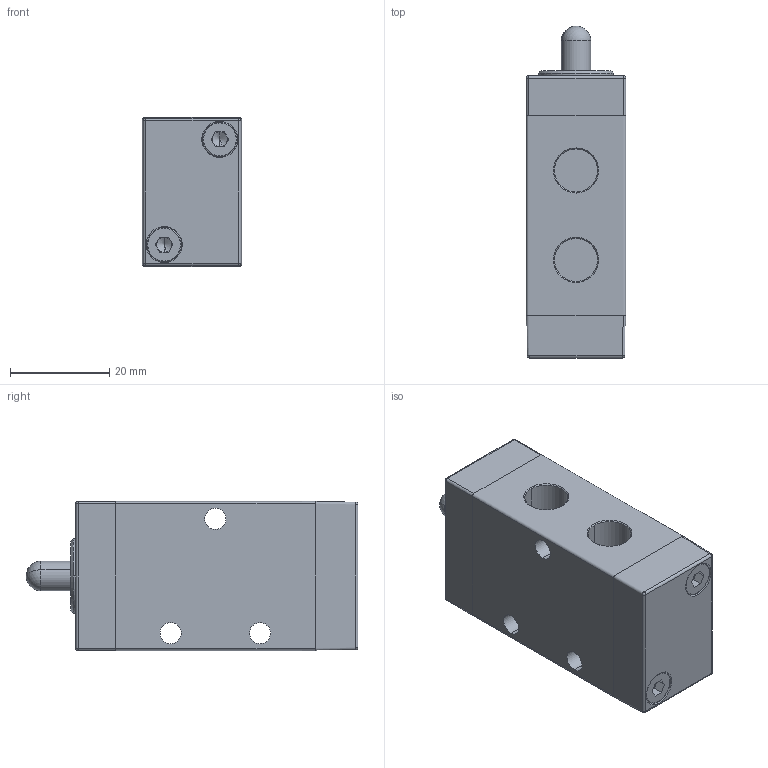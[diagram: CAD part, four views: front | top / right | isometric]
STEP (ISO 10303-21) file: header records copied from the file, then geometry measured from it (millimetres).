
FILE_DESCRIPTION (( 'STEP AP203' ), '1' );
FILE_NAME ('VCMS32.M8.STEP', '2006-01-31T14:40:18', ( 'Vesta Automation srl' ), ( 'Vesta Automation srl' ), 'SwSTEP 2.0', 'SolidWorks 2005187', '' );
FILE_SCHEMA (( 'CONFIG_CONTROL_DESIGN' ));
Length unit declared in the file: millimetre
Products named in the file (3): BODY-VCMS32.M8; SPOOL-VCMS32.M8; VCMS32.M8
Assembly tree (2 placements, depth 2):
  VCMS32.M8
    SPOOL-VCMS32.M8
    BODY-VCMS32.M8
Bounding box: 20 x 66.8 x 30 mm (x, y, z)
Volume: 26240.5 mm3; surface area: 13839.1 mm2
Topology: 2 solids, 6 shells, 353 faces, 852 edges, 527 vertices
Faces by surface type: plane 193, cylinder 102, cone 26, torus 22, sphere 10
Entity records: 10435 total; most frequent: DIRECTION 1832, CARTESIAN_POINT 1739, ORIENTED_EDGE 1672, EDGE_CURVE 836, AXIS2_PLACEMENT_3D 642, VECTOR 548, LINE 548, VERTEX_POINT 525
